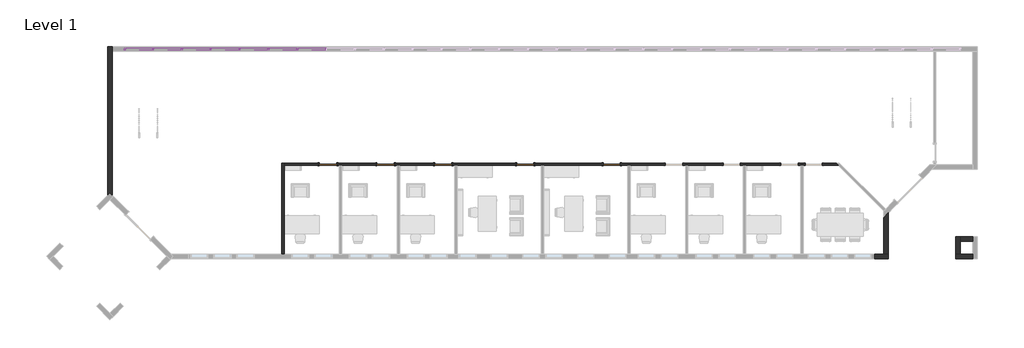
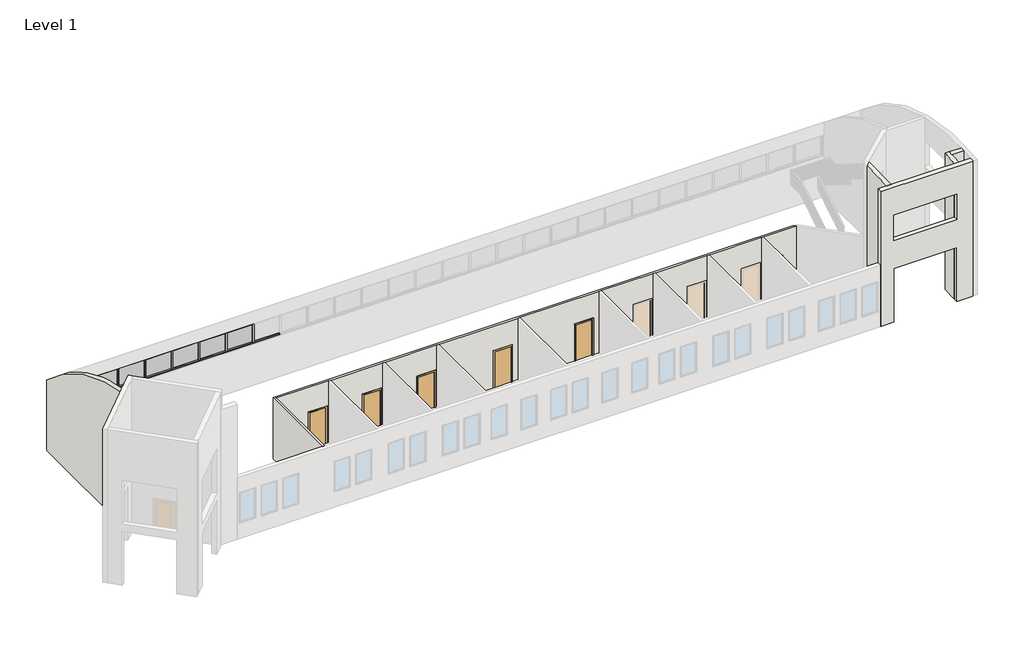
# One storey, part 2 of 4: 23 members, 7 plates, 7 walls, 5 doors.
"""IFC4 building model written with IfcOpenShell, lengths in millimetres."""

from ifc_helpers import new_model, si_unit, frame, origin, place, context, project, spatial, circle_curve, ellipse_curve, faceted_brep, transform, mapped, element, save
from ifc_brep_helpers import plane_surface, cylinder_surface, advanced_brep
from components import door_eb9f8b14, member_26d67f61, member_4a1dde21, member_ea26f28a, member_39b5eb81, system_panel_glazed_acb3b149, system_panel_glazed_38e8219a

model = new_model("IFC4")

# Units and contexts
model_context = context("Model", 3, world=origin())
ifc_project = project(units=[si_unit("LENGTHUNIT", "METRE", prefix="MILLI")], contexts=[model_context])

# Site, building, storey
site = spatial("IfcSite", under=ifc_project)
building = spatial("IfcBuilding", under=site)
storey = spatial("IfcBuildingStorey", under=building, Name="Level 1", Elevation=0.0)

# Doors
placement = place(None, origin())
door_shape = door_eb9f8b14(model_context)
element("IfcDoor", 1, ObjectType="Single-Flush : 36\" x 84\"", at=placement, inside=storey, context=model_context, shape_type="MappedRepresentation", body=[
    mapped(door_shape, transform((-596.7228906, 2425.2975872, 0.0), x_axis=(1.0, 0.0, 0.0), y_axis=(0.0, 1.0, 0.0), z_axis=(0.0, 0.0, 1.0))),
])
element("IfcDoor", 2, ObjectType="Single-Flush : 36\" x 84\"", at=placement, inside=storey, context=model_context, shape_type="MappedRepresentation", body=[
    mapped(door_shape, transform((2451.2771094, 2425.2975872, 0.0), x_axis=(1.0, 0.0, 0.0), y_axis=(0.0, 1.0, 0.0), z_axis=(0.0, 0.0, 1.0))),
])
element("IfcDoor", 3, ObjectType="Single-Flush : 36\" x 84\"", at=placement, inside=storey, context=model_context, shape_type="MappedRepresentation", body=[
    mapped(door_shape, transform((9828.3896094, 2425.2975872, 0.0), x_axis=(1.0, 0.0, 0.0), y_axis=(0.0, 1.0, 0.0), z_axis=(0.0, 0.0, 1.0))),
])
element("IfcDoor", 4, ObjectType="Single-Flush : 36\" x 84\"", at=placement, inside=storey, context=model_context, shape_type="MappedRepresentation", body=[
    mapped(door_shape, transform((5499.2771094, 2425.2975872, 0.0), x_axis=(1.0, 0.0, 0.0), y_axis=(0.0, 1.0, 0.0), z_axis=(0.0, 0.0, 1.0))),
])
element("IfcDoor", 5, ObjectType="Single-Flush : 36\" x 84\"", at=placement, inside=storey, context=model_context, shape_type="MappedRepresentation", body=[
    mapped(door_shape, transform((14400.3896094, 2425.2975872, 0.0), x_axis=(1.0, 0.0, 0.0), y_axis=(0.0, 1.0, 0.0), z_axis=(0.0, 0.0, 1.0))),
])

# Members
member_shape = member_26d67f61(model_context)
element("IfcMember", 6, ObjectType="Rectangular Mullion : 2.5\" x 5\" rectangular", at=placement, inside=storey, context=model_context, shape_type="MappedRepresentation", body=[
    mapped(member_shape, transform((-9862.9603906, 8521.2975872, 3657.6), x_axis=(0.0, 0.0, 1.0), y_axis=(0.0, -1.0, 0.0), z_axis=(1.0, 0.0, 0.0))),
])
member_2_shape = member_4a1dde21(model_context)
element("IfcMember", 7, ObjectType="Rectangular Mullion : 2.5\" x 5\" rectangular", at=placement, inside=storey, context=model_context, shape_type="MappedRepresentation", body=[
    mapped(member_2_shape, transform((-8338.9603906, 8521.2975872, 3657.6), x_axis=(0.0, 0.0, 1.0), y_axis=(0.0, -1.0, 0.0), z_axis=(1.0, 0.0, 0.0))),
])
element("IfcMember", 8, ObjectType="Rectangular Mullion : 2.5\" x 5\" rectangular", at=placement, inside=storey, context=model_context, shape_type="MappedRepresentation", body=[
    mapped(member_2_shape, transform((-6814.9603906, 8521.2975872, 3657.6), x_axis=(0.0, 0.0, 1.0), y_axis=(0.0, -1.0, 0.0), z_axis=(1.0, 0.0, 0.0))),
])
element("IfcMember", 9, ObjectType="Rectangular Mullion : 2.5\" x 5\" rectangular", at=placement, inside=storey, context=model_context, shape_type="MappedRepresentation", body=[
    mapped(member_2_shape, transform((-5290.9603906, 8521.2975872, 3657.6), x_axis=(0.0, 0.0, 1.0), y_axis=(0.0, -1.0, 0.0), z_axis=(1.0, 0.0, 0.0))),
])
element("IfcMember", 10, ObjectType="Rectangular Mullion : 2.5\" x 5\" rectangular", at=placement, inside=storey, context=model_context, shape_type="MappedRepresentation", body=[
    mapped(member_2_shape, transform((-3766.9603906, 8521.2975872, 3657.6), x_axis=(0.0, 0.0, 1.0), y_axis=(0.0, -1.0, 0.0), z_axis=(1.0, 0.0, 0.0))),
])
element("IfcMember", 11, ObjectType="Rectangular Mullion : 2.5\" x 5\" rectangular", at=placement, inside=storey, context=model_context, shape_type="MappedRepresentation", body=[
    mapped(member_2_shape, transform((-2242.9603906, 8521.2975872, 3657.6), x_axis=(0.0, 0.0, 1.0), y_axis=(0.0, -1.0, 0.0), z_axis=(1.0, 0.0, 0.0))),
])
element("IfcMember", 12, ObjectType="Rectangular Mullion : 2.5\" x 5\" rectangular", at=placement, inside=storey, context=model_context, shape_type="MappedRepresentation", body=[
    mapped(member_2_shape, transform((-718.9603906, 8521.2975872, 3657.6), x_axis=(0.0, 0.0, 1.0), y_axis=(0.0, -1.0, 0.0), z_axis=(1.0, 0.0, 0.0))),
])
element("IfcMember", 13, ObjectType="Rectangular Mullion : 2.5\" x 5\" rectangular", at=placement, inside=storey, context=model_context, shape_type="MappedRepresentation", body=[
    mapped(member_shape, transform((-11291.7103906, 8521.2975872, 2451.0234381), x_axis=(0.0, 0.0, -1.0), y_axis=(0.0, -1.0, 0.0), z_axis=(-1.0, 0.0, 0.0))),
])
element("IfcMember", 14, ObjectType="Rectangular Mullion : 2.5\" x 5\" rectangular", at=placement, inside=storey, context=model_context, shape_type="MappedRepresentation", body=[
    mapped(member_2_shape, transform((-9799.4603906, 8521.2975872, 2451.0234381), x_axis=(0.0, 0.0, -1.0), y_axis=(0.0, -1.0, 0.0), z_axis=(-1.0, 0.0, 0.0))),
])
element("IfcMember", 15, ObjectType="Rectangular Mullion : 2.5\" x 5\" rectangular", at=placement, inside=storey, context=model_context, shape_type="MappedRepresentation", body=[
    mapped(member_2_shape, transform((-8275.4603906, 8521.2975872, 2451.0234381), x_axis=(0.0, 0.0, -1.0), y_axis=(0.0, -1.0, 0.0), z_axis=(-1.0, 0.0, 0.0))),
])
element("IfcMember", 16, ObjectType="Rectangular Mullion : 2.5\" x 5\" rectangular", at=placement, inside=storey, context=model_context, shape_type="MappedRepresentation", body=[
    mapped(member_2_shape, transform((-6751.4603906, 8521.2975872, 2451.0234381), x_axis=(0.0, 0.0, -1.0), y_axis=(0.0, -1.0, 0.0), z_axis=(-1.0, 0.0, 0.0))),
])
element("IfcMember", 17, ObjectType="Rectangular Mullion : 2.5\" x 5\" rectangular", at=placement, inside=storey, context=model_context, shape_type="MappedRepresentation", body=[
    mapped(member_2_shape, transform((-5227.4603906, 8521.2975872, 2451.0234381), x_axis=(0.0, 0.0, -1.0), y_axis=(0.0, -1.0, 0.0), z_axis=(-1.0, 0.0, 0.0))),
])
element("IfcMember", 18, ObjectType="Rectangular Mullion : 2.5\" x 5\" rectangular", at=placement, inside=storey, context=model_context, shape_type="MappedRepresentation", body=[
    mapped(member_2_shape, transform((-3703.4603906, 8521.2975872, 2451.0234381), x_axis=(0.0, 0.0, -1.0), y_axis=(0.0, -1.0, 0.0), z_axis=(-1.0, 0.0, 0.0))),
])
element("IfcMember", 19, ObjectType="Rectangular Mullion : 2.5\" x 5\" rectangular", at=placement, inside=storey, context=model_context, shape_type="MappedRepresentation", body=[
    mapped(member_2_shape, transform((-2179.4603906, 8521.2975872, 2451.0234381), x_axis=(0.0, 0.0, -1.0), y_axis=(0.0, -1.0, 0.0), z_axis=(-1.0, 0.0, 0.0))),
])
element("IfcMember", 20, ObjectType="Rectangular Mullion : 2.5\" x 5\" rectangular", at=placement, inside=storey, context=model_context, shape_type="MappedRepresentation", body=[
    mapped(member_2_shape, transform((-655.4603906, 8521.2975872, 2451.0234381), x_axis=(0.0, 0.0, -1.0), y_axis=(0.0, -1.0, 0.0), z_axis=(-1.0, 0.0, 0.0))),
])
member_3_shape = member_ea26f28a(model_context)
element("IfcMember", 21, ObjectType="Rectangular Mullion : 2.5\" x 5\" rectangular", at=placement, inside=storey, context=model_context, shape_type="MappedRepresentation", body=[
    mapped(member_3_shape, transform((-9831.2103906, 8521.2975872, 2451.0234381), x_axis=(1.0, 0.0, 0.0), y_axis=(0.0, -1.0, 0.0), z_axis=(0.0, 0.0, -1.0))),
])
element("IfcMember", 22, ObjectType="Rectangular Mullion : 2.5\" x 5\" rectangular", at=placement, inside=storey, context=model_context, shape_type="MappedRepresentation", body=[
    mapped(member_3_shape, transform((-8307.2103906, 8521.2975872, 2451.0234381), x_axis=(1.0, 0.0, 0.0), y_axis=(0.0, -1.0, 0.0), z_axis=(0.0, 0.0, -1.0))),
])
element("IfcMember", 23, ObjectType="Rectangular Mullion : 2.5\" x 5\" rectangular", at=placement, inside=storey, context=model_context, shape_type="MappedRepresentation", body=[
    mapped(member_3_shape, transform((-6783.2103906, 8521.2975872, 2451.0234381), x_axis=(1.0, 0.0, 0.0), y_axis=(0.0, -1.0, 0.0), z_axis=(0.0, 0.0, -1.0))),
])
element("IfcMember", 24, ObjectType="Rectangular Mullion : 2.5\" x 5\" rectangular", at=placement, inside=storey, context=model_context, shape_type="MappedRepresentation", body=[
    mapped(member_3_shape, transform((-5259.2103906, 8521.2975872, 2451.0234381), x_axis=(1.0, 0.0, 0.0), y_axis=(0.0, -1.0, 0.0), z_axis=(0.0, 0.0, -1.0))),
])
element("IfcMember", 25, ObjectType="Rectangular Mullion : 2.5\" x 5\" rectangular", at=placement, inside=storey, context=model_context, shape_type="MappedRepresentation", body=[
    mapped(member_3_shape, transform((-3735.2103906, 8521.2975872, 2451.0234381), x_axis=(1.0, 0.0, 0.0), y_axis=(0.0, -1.0, 0.0), z_axis=(0.0, 0.0, -1.0))),
])
element("IfcMember", 26, ObjectType="Rectangular Mullion : 2.5\" x 5\" rectangular", at=placement, inside=storey, context=model_context, shape_type="MappedRepresentation", body=[
    mapped(member_3_shape, transform((-2211.2103906, 8521.2975872, 2451.0234381), x_axis=(1.0, 0.0, 0.0), y_axis=(0.0, -1.0, 0.0), z_axis=(0.0, 0.0, -1.0))),
])
element("IfcMember", 27, ObjectType="Rectangular Mullion : 2.5\" x 5\" rectangular", at=placement, inside=storey, context=model_context, shape_type="MappedRepresentation", body=[
    mapped(member_3_shape, transform((-687.2103906, 8521.2975872, 2451.0234381), x_axis=(1.0, 0.0, 0.0), y_axis=(0.0, -1.0, 0.0), z_axis=(0.0, 0.0, -1.0))),
])
member_4_shape = member_39b5eb81(model_context)
element("IfcMember", 28, ObjectType="Rectangular Mullion : 2.5\" x 5\" rectangular", at=placement, inside=storey, context=model_context, shape_type="MappedRepresentation", body=[
    mapped(member_4_shape, transform((-11355.2103906, 8521.2975872, 3657.6), x_axis=(-1.0, 0.0, 0.0), y_axis=(0.0, -1.0, 0.0), z_axis=(0.0, 0.0, 1.0))),
])

# Plates
system_panel_glazed_shape = system_panel_glazed_acb3b149(model_context)
element("IfcPlate", 29, ObjectType="System Panel : Glazed", at=placement, inside=storey, context=model_context, shape_type="MappedRepresentation", body=[
    mapped(system_panel_glazed_shape, transform((-10577.3353906, 8521.2975872, 2514.5234381), x_axis=(1.0, 0.0, 0.0), y_axis=(0.0, 1.0, 0.0), z_axis=(0.0, 0.0, 1.0))),
])
system_panel_glazed_2_shape = system_panel_glazed_38e8219a(model_context)
element("IfcPlate", 30, ObjectType="System Panel : Glazed", at=placement, inside=storey, context=model_context, shape_type="MappedRepresentation", body=[
    mapped(system_panel_glazed_2_shape, transform((-9069.2103906, 8521.2975872, 2514.5234381), x_axis=(1.0, 0.0, 0.0), y_axis=(0.0, 1.0, 0.0), z_axis=(0.0, 0.0, 1.0))),
])
element("IfcPlate", 31, ObjectType="System Panel : Glazed", at=placement, inside=storey, context=model_context, shape_type="MappedRepresentation", body=[
    mapped(system_panel_glazed_2_shape, transform((-7545.2103906, 8521.2975872, 2514.5234381), x_axis=(1.0, 0.0, 0.0), y_axis=(0.0, 1.0, 0.0), z_axis=(0.0, 0.0, 1.0))),
])
element("IfcPlate", 32, ObjectType="System Panel : Glazed", at=placement, inside=storey, context=model_context, shape_type="MappedRepresentation", body=[
    mapped(system_panel_glazed_2_shape, transform((-6021.2103906, 8521.2975872, 2514.5234381), x_axis=(1.0, 0.0, 0.0), y_axis=(0.0, 1.0, 0.0), z_axis=(0.0, 0.0, 1.0))),
])
element("IfcPlate", 33, ObjectType="System Panel : Glazed", at=placement, inside=storey, context=model_context, shape_type="MappedRepresentation", body=[
    mapped(system_panel_glazed_2_shape, transform((-4497.2103906, 8521.2975872, 2514.5234381), x_axis=(1.0, 0.0, 0.0), y_axis=(0.0, 1.0, 0.0), z_axis=(0.0, 0.0, 1.0))),
])
element("IfcPlate", 34, ObjectType="System Panel : Glazed", at=placement, inside=storey, context=model_context, shape_type="MappedRepresentation", body=[
    mapped(system_panel_glazed_2_shape, transform((-2973.2103906, 8521.2975872, 2514.5234381), x_axis=(1.0, 0.0, 0.0), y_axis=(0.0, 1.0, 0.0), z_axis=(0.0, 0.0, 1.0))),
])
element("IfcPlate", 35, ObjectType="System Panel : Glazed", at=placement, inside=storey, context=model_context, shape_type="MappedRepresentation", body=[
    mapped(system_panel_glazed_2_shape, transform((-1449.2103906, 8521.2975872, 2514.5234381), x_axis=(1.0, 0.0, 0.0), y_axis=(0.0, 1.0, 0.0), z_axis=(0.0, 0.0, 1.0))),
])

# Walls
element("IfcWall", 36, ObjectType="Exterior - EIFS on Mtl. Stud", at=placement, inside=storey, context=model_context, shape_type="AdvancedBrep", body=[
    advanced_brep(
    [(-11996.5603906, 777.4831203, 0.0), (-11996.5603906, 8400.6475872, 0.0), (-11996.5603906, 8641.9475872, 0.0), (-11996.5603906, 8641.9475872, 4186.9126463), (-11996.5603906, 8400.6404103, 4416.6270044), (-11996.5603906, 777.4831203, 8006.8172025), (-12237.8603906, 777.4831203, 0.0), (-12237.8603906, 777.4831203, 8006.8172025), (-12237.8603906, 8641.9475872, 4186.9126463), (-12237.8603906, 8641.9475872, 0.0), (-12117.2103906, 898.1331203, 0.0), (-12117.2103906, 898.1331203, 7990.3191324)],
    [
        (0, 1),
        (1, 2),
        (2, 3),
        (3, 4, circle_curve(frame((-11996.5603906, -1041.3166946, -5743.4275557), z_axis=(1.0, 0.0, 0.0), x_axis=(0.0, -1.0, 0.0)), 13870.0131102)),
        (4, 5, circle_curve(frame((-11996.5603906, -1041.3166946, -5743.4275557), z_axis=(1.0, 0.0, 0.0), x_axis=(0.0, -1.0, 0.0)), 13870.0130727)),
        (5, 0),
        (6, 7),
        (7, 8, circle_curve(frame((-12237.8603906, -1041.3166946, -5743.4275557), z_axis=(-1.0, 0.0, 0.0), x_axis=(0.0, -1.0, 0.0)), 13870.0131102)),
        (8, 9),
        (9, 6),
        (0, 10),
        (10, 6),
        (9, 2),
        (8, 3),
        (5, 11, ellipse_curve(frame((-10177.7605757, -1041.3166946, -5743.4275557), z_axis=(-0.7071067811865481, -0.7071067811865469, 0.0), x_axis=(0.7071067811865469, -0.707106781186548, 0.0)), 19615.1606508, 13870.0131102)),
        (11, 10),
        (11, 7, ellipse_curve(frame((-14056.6602055, -1041.3166946, -5743.4275557), z_axis=(0.707106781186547, -0.707106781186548, 0.0), x_axis=(0.707106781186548, 0.707106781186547, 0.0)), 19615.1606508, 13870.0131102)),
    ],
    [
        plane_surface(frame((-11996.5603906, -2451.5024128, 0.0), z_axis=(1.0, 0.0, 0.0), x_axis=(0.0, 1.0, 0.0))),
        plane_surface(frame((-12237.8603906, -2451.5024128, 0.0), z_axis=(-1.0, 0.0, 0.0), x_axis=(0.0, -1.0, 0.0))),
        plane_surface(frame((-11996.5603906, 727.508254, 0.0), z_axis=(0.0, 0.0, -1.0), x_axis=(-1.0, 0.0, 0.0))),
        plane_surface(frame((-6021.2103906, 8641.9475872, 0.0), z_axis=(0.0, 1.0, 0.0), x_axis=(-1.0, 0.0, 0.0))),
        plane_surface(frame((-9361.6897463, -1857.387524, -182.88), z_axis=(-0.7071067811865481, -0.7071067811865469, 0.0), x_axis=(0.7071067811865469, -0.7071067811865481, 0.0))),
        plane_surface(frame((-14872.7310349, -1857.387524, -182.88), z_axis=(0.707106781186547, -0.707106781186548, 0.0), x_axis=(0.707106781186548, 0.707106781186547, 0.0))),
        cylinder_surface(frame((34821.9896094, -1041.3166946, -5743.4275557), z_axis=(1.0, 0.0, 0.0), x_axis=(0.0, -1.0, 0.0)), 13870.0131102),
    ],
    [
        (0, [[1, 2, 3, 4, 5, 6]]),
        (1, [[7, 8, 9, 10]]),
        (2, [[-2, -1, 11, 12, -10, 13]]),
        (3, [[-3, -13, -9, 14]]),
        (4, [[-6, 15, 16, -11]]),
        (5, [[17, -7, -12, -16]]),
        (6, [[-5, -4, -14, -8, -17, -15]]),
    ],
),
])
element("IfcWall", 37, ObjectType="Exterior - EIFS on Mtl. Stud", at=placement, inside=storey, context=model_context, shape_type="AdvancedBrep", body=[
    advanced_brep(
    [(33482.1396094, -2330.8524128, 0.0), (32809.0396094, -2330.8524128, 0.0), (32567.7396094, -2330.8524128, 0.0), (32567.7396094, -2330.8524128, 3200.4), (29002.2146094, -2330.8524128, 3200.4), (29002.2146094, -2330.8524128, 0.0), (28760.9146094, -2330.8524128, 0.0), (28268.7896094, -2330.8524128, 0.0), (28268.7896094, -2330.8524128, 3657.6), (28268.7896094, -2330.8524128, 7315.2), (28268.7896094, -2330.8524128, 8066.5094937), (28760.9146094, -2330.8524128, 8066.5094937), (29002.2146094, -2330.8524128, 8066.5094937), (32567.7396094, -2330.8524128, 8066.5094937), (32809.0396094, -2330.8524128, 8066.5094937), (33482.1396094, -2330.8524128, 8066.5094937), (32567.7396094, -2330.8524128, 4876.8), (32567.7396094, -2330.8524128, 6400.8), (29002.2146094, -2330.8524128, 6400.8), (29002.2146094, -2330.8524128, 4876.8), (33482.1396094, -2572.1524128, 0.0), (33482.1396094, -2572.1524128, 8041.8474028), (28268.7896094, -2572.1524128, 8041.8474028), (28268.7896094, -2572.1524128, 7315.2), (28268.7896094, -2572.1524128, 3657.6), (28268.7896094, -2572.1524128, 0.0), (29002.2146094, -2572.1524128, 0.0), (29002.2146094, -2572.1524128, 3200.4), (32567.7396094, -2572.1524128, 3200.4), (32567.7396094, -2572.1524128, 0.0), (32567.7396094, -2572.1524128, 4876.8), (29002.2146094, -2572.1524128, 4876.8), (29002.2146094, -2572.1524128, 6400.8), (32567.7396094, -2572.1524128, 6400.8)],
    [
        (0, 1),
        (1, 2),
        (2, 3),
        (3, 4),
        (4, 5),
        (5, 6),
        (6, 7),
        (7, 8),
        (8, 9),
        (9, 10),
        (10, 11),
        (11, 12),
        (12, 13),
        (13, 14),
        (14, 15),
        (15, 0),
        (16, 17),
        (17, 18),
        (18, 19),
        (19, 16),
        (20, 21),
        (21, 22),
        (22, 23),
        (23, 24),
        (24, 25),
        (25, 26),
        (26, 27),
        (27, 28),
        (28, 29),
        (29, 20),
        (30, 31),
        (31, 32),
        (32, 33),
        (33, 30),
        (0, 20),
        (29, 2),
        (3, 28),
        (27, 4),
        (5, 26),
        (25, 7),
        (17, 33),
        (32, 18),
        (19, 31),
        (30, 16),
        (22, 10, circle_curve(frame((28268.7896094, -1041.3166946, -5743.4275557), z_axis=(-1.0, 0.0, 0.0), x_axis=(0.0, -1.0, 0.0)), 13870.0131102)),
        (15, 21, circle_curve(frame((33482.1396094, -1041.3166946, -5743.4275557), z_axis=(1.0, 0.0, 0.0), x_axis=(0.0, -1.0, 0.0)), 13870.0131102)),
    ],
    [
        plane_surface(frame((12266.7896094, -2330.8524128, 0.0), z_axis=(0.0, 1.0, 0.0), x_axis=(-1.0, 0.0, 0.0))),
        plane_surface(frame((12266.7896094, -2572.1524128, 0.0), z_axis=(0.0, -1.0, 0.0), x_axis=(1.0, 0.0, 0.0))),
        plane_surface(frame((33602.7896094, -2330.8524128, 0.0), z_axis=(0.0, 0.0, -1.0), x_axis=(0.0, -1.0, 0.0))),
        plane_surface(frame((32688.3896094, -2330.8524128, 3200.4), z_axis=(0.0, 0.0, -1.0), x_axis=(0.0, -1.0, 0.0))),
        plane_surface(frame((28881.5646094, -2330.8524128, 0.0), z_axis=(0.0, 0.0, -1.0), x_axis=(0.0, -1.0, 0.0))),
        plane_surface(frame((32688.3896094, -2330.8524128, 6400.8), z_axis=(0.0, 0.0, -1.0), x_axis=(0.0, -1.0, 0.0))),
        plane_surface(frame((28881.5646094, -2330.8524128, 4876.8), z_axis=(0.0, 0.0, 1.0), x_axis=(0.0, -1.0, 0.0))),
        plane_surface(frame((28268.7896094, -2330.8524128, 0.0), z_axis=(-1.0, 0.0, 0.0), x_axis=(0.0, -1.0, 0.0))),
        plane_surface(frame((32567.7396094, -2451.5024128, 0.0), z_axis=(-1.0, 0.0, 0.0), x_axis=(0.0, -1.0, 0.0))),
        plane_surface(frame((29002.2146094, -1062.9801319, 0.0), z_axis=(1.0, 0.0, 0.0), x_axis=(0.0, 1.0, 0.0))),
        plane_surface(frame((33482.1396094, 6692.4975872, 0.0), z_axis=(1.0, 0.0, 0.0), x_axis=(0.0, -1.0, 0.0))),
        cylinder_surface(frame((34821.9896094, -1041.3166946, -5743.4275557), z_axis=(1.0, 0.0, 0.0), x_axis=(0.0, -1.0, 0.0)), 13870.0131102),
    ],
    [
        (0, [[1, 2, 3, 4, 5, 6, 7, 8, 9, 10, 11, 12, 13, 14, 15, 16], [17, 18, 19, 20]]),
        (1, [[21, 22, 23, 24, 25, 26, 27, 28, 29, 30], [31, 32, 33, 34]]),
        (2, [[-2, -1, 35, -30, 36]]),
        (3, [[-4, 37, -28, 38]]),
        (4, [[-7, -6, 39, -26, 40]]),
        (5, [[-18, 41, -33, 42]]),
        (6, [[-20, 43, -31, 44]]),
        (7, [[-40, -25, -24, -23, 45, -10, -9, -8]]),
        (8, [[-3, -36, -29, -37]]),
        (8, [[-17, -44, -34, -41]]),
        (9, [[-5, -38, -27, -39]]),
        (9, [[-19, -42, -32, -43]]),
        (10, [[-16, 46, -21, -35]]),
        (11, [[-15, -14, -13, -12, -11, -45, -22, -46]]),
    ],
),
])
element("IfcWall", 38, ObjectType="Exterior - EIFS on Mtl. Stud", at=placement, inside=storey, context=model_context, shape_type="AdvancedBrep", body=[
    advanced_brep(
    [(32809.0396094, -2330.8524128, 8066.5094937), (32809.0396094, -2330.8524128, 0.0), (32809.0396094, -1657.7524128, 0.0), (32809.0396094, -1416.4524128, 0.0), (32809.0396094, -1416.4524128, 8121.5115668), (32809.0396094, -1657.757348, 8112.8801821), (32567.7396094, -2330.8524128, 0.0), (32567.7396094, -2330.8524128, 3200.4), (32567.7396094, -2330.8524128, 4876.8), (32567.7396094, -2330.8524128, 6400.8), (32567.7396094, -2330.8524128, 8066.5094937), (32567.7396094, -1416.4524128, 8121.5115668), (32567.7396094, -1416.4524128, 0.0)],
    [
        (0, 1),
        (1, 2),
        (2, 3),
        (3, 4),
        (4, 5, circle_curve(frame((32809.0396094, -1041.3166946, -5743.4275557), z_axis=(1.0, 0.0, 0.0), x_axis=(0.0, -1.0, 0.0)), 13870.0131102)),
        (5, 0, circle_curve(frame((32809.0396094, -1041.3166946, -5743.4275557), z_axis=(1.0, 0.0, 0.0), x_axis=(0.0, -1.0, 0.0)), 13870.0130931)),
        (6, 7),
        (7, 8),
        (8, 9),
        (9, 10),
        (10, 11, circle_curve(frame((32567.7396094, -1041.3166946, -5743.4275557), z_axis=(-1.0, 0.0, 0.0), x_axis=(0.0, -1.0, 0.0)), 13870.0131102)),
        (11, 12),
        (12, 6),
        (1, 6),
        (12, 3),
        (11, 4),
        (0, 10),
    ],
    [
        plane_surface(frame((32809.0396094, -2451.5024128, 0.0), z_axis=(1.0, 0.0, 0.0), x_axis=(0.0, 1.0, 0.0))),
        plane_surface(frame((32567.7396094, -2451.5024128, 0.0), z_axis=(-1.0, 0.0, 0.0), x_axis=(0.0, -1.0, 0.0))),
        plane_surface(frame((32809.0396094, -2451.5024128, 0.0), z_axis=(0.0, 0.0, -1.0), x_axis=(-1.0, 0.0, 0.0))),
        plane_surface(frame((32383.5896094, -1416.4524128, 0.0), z_axis=(0.0, 1.0, 0.0), x_axis=(-1.0, 0.0, 0.0))),
        plane_surface(frame((12266.7896094, -2330.8524128, 0.0), z_axis=(0.0, -1.0, 0.0), x_axis=(-1.0, 0.0, 0.0))),
        cylinder_surface(frame((34821.9896094, -1041.3166946, -5743.4275557), z_axis=(1.0, 0.0, 0.0), x_axis=(0.0, -1.0, 0.0)), 13870.0131102),
    ],
    [
        (0, [[1, 2, 3, 4, 5, 6]]),
        (1, [[7, 8, 9, 10, 11, 12, 13]]),
        (2, [[-3, -2, 14, -13, 15]]),
        (3, [[-4, -15, -12, 16]]),
        (4, [[17, -10, -9, -8, -7, -14, -1]]),
        (5, [[-6, -5, -16, -11, -17]]),
    ],
),
])
element("IfcWall", 39, ObjectType="Exterior - EIFS on Mtl. Stud", at=placement, inside=storey, context=model_context, shape_type="AdvancedBrep", body=[
    advanced_brep(
    [(32809.0396094, -1657.7524128, 0.0), (33482.1396094, -1657.7524128, 0.0), (33482.1396094, -1657.7524128, 8112.8804187), (32809.0396094, -1657.7524128, 8112.8804187), (32809.0396094, -1416.4524128, 0.0), (32809.0396094, -1416.4524128, 8121.5115668), (33482.1396094, -1416.4524128, 8121.5115668), (33482.1396094, -1416.4524128, 6400.8), (33482.1396094, -1416.4524128, 4876.8), (33482.1396094, -1416.4524128, 3200.4), (33482.1396094, -1416.4524128, 0.0)],
    [
        (0, 1),
        (1, 2),
        (2, 3),
        (3, 0),
        (4, 5),
        (5, 6),
        (6, 7),
        (7, 8),
        (8, 9),
        (9, 10),
        (10, 4),
        (0, 4),
        (10, 1),
        (3, 5, circle_curve(frame((32809.0396094, -1041.3166946, -5743.4275557), z_axis=(-1.0, 0.0, 0.0), x_axis=(0.0, -1.0, 0.0)), 13870.0131102)),
        (6, 2, circle_curve(frame((33482.1396094, -1041.3166946, -5743.4275557), z_axis=(1.0, 0.0, 0.0), x_axis=(0.0, -1.0, 0.0)), 13870.0131102)),
    ],
    [
        plane_surface(frame((32383.5896094, -1657.7524128, 0.0), z_axis=(0.0, -1.0, 0.0), x_axis=(1.0, 0.0, 0.0))),
        plane_surface(frame((32383.5896094, -1416.4524128, 0.0), z_axis=(0.0, 1.0, 0.0), x_axis=(-1.0, 0.0, 0.0))),
        plane_surface(frame((32688.3896094, -1657.7524128, 0.0), z_axis=(0.0, 0.0, -1.0), x_axis=(0.0, 1.0, 0.0))),
        plane_surface(frame((32809.0396094, -2451.5024128, 0.0), z_axis=(-1.0, 0.0, 0.0), x_axis=(0.0, 1.0, 0.0))),
        plane_surface(frame((33482.1396094, 6692.4975872, 0.0), z_axis=(1.0, 0.0, 0.0), x_axis=(0.0, -1.0, 0.0))),
        cylinder_surface(frame((34821.9896094, -1041.3166946, -5743.4275557), z_axis=(1.0, 0.0, 0.0), x_axis=(0.0, -1.0, 0.0)), 13870.0131102),
    ],
    [
        (0, [[1, 2, 3, 4]]),
        (1, [[5, 6, 7, 8, 9, 10, 11]]),
        (2, [[-1, 12, -11, 13]]),
        (3, [[-4, 14, -5, -12]]),
        (4, [[-13, -10, -9, -8, -7, 15, -2]]),
        (5, [[-3, -15, -6, -14]]),
    ],
),
])
element("IfcWall", 40, ObjectType="Exterior - EIFS on Mtl. Stud", at=placement, inside=storey, context=model_context, shape_type="AdvancedBrep", body=[
    advanced_brep(
    [(28760.9146094, -392.3168192, 0.0), (28760.9146094, -2330.8524128, 0.0), (28760.9146094, -2330.8524128, 8066.5094937), (28760.9146094, -392.3168192, 8111.3933684), (29002.2146094, -151.0168192, 0.0), (29002.2146094, -151.0168192, 8097.9824089), (29002.2146094, -2330.8524128, 8066.5094937), (29002.2146094, -2330.8524128, 6400.8), (29002.2146094, -2330.8524128, 4876.8), (29002.2146094, -2330.8524128, 3200.4), (29002.2146094, -2330.8524128, 0.0)],
    [
        (0, 1),
        (1, 2),
        (2, 3, circle_curve(frame((28760.9146094, -1041.3166946, -5743.4275557), z_axis=(-1.0, 0.0, 0.0), x_axis=(0.0, -1.0, 0.0)), 13870.0131102)),
        (3, 0),
        (4, 5),
        (5, 6, circle_curve(frame((29002.2146094, -1041.3166946, -5743.4275557), z_axis=(1.0, 0.0, 0.0), x_axis=(0.0, -1.0, 0.0)), 13870.0131102)),
        (6, 7),
        (7, 8),
        (8, 9),
        (9, 10),
        (10, 4),
        (0, 4),
        (10, 1),
        (6, 2),
        (3, 5, ellipse_curve(frame((28111.9147341, -1041.3166946, -5743.4275557), z_axis=(-0.7071067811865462, 0.707106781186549, 0.0), x_axis=(0.7071067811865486, 0.7071067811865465, 0.0)), 19615.1606508, 13870.0131102)),
    ],
    [
        plane_surface(frame((28760.9146094, -1062.9801319, 0.0), z_axis=(-1.0, 0.0, 0.0), x_axis=(0.0, -1.0, 0.0))),
        plane_surface(frame((29002.2146094, -1062.9801319, 0.0), z_axis=(1.0, 0.0, 0.0), x_axis=(0.0, 1.0, 0.0))),
        plane_surface(frame((28760.9146094, -101.0419529, 0.0), z_axis=(0.0, 0.0, -1.0), x_axis=(1.0, 0.0, 0.0))),
        plane_surface(frame((12266.7896094, -2330.8524128, 0.0), z_axis=(0.0, -1.0, 0.0), x_axis=(-1.0, 0.0, 0.0))),
        plane_surface(frame((29049.7306208, -103.5008079, 0.0), z_axis=(-0.7071067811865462, 0.707106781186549, 0.0), x_axis=(0.707106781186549, 0.7071067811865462, 0.0))),
        cylinder_surface(frame((34821.9896094, -1041.3166946, -5743.4275557), z_axis=(1.0, 0.0, 0.0), x_axis=(0.0, -1.0, 0.0)), 13870.0131102),
    ],
    [
        (0, [[1, 2, 3, 4]]),
        (1, [[5, 6, 7, 8, 9, 10, 11]]),
        (2, [[-1, 12, -11, 13]]),
        (3, [[-13, -10, -9, -8, -7, 14, -2]]),
        (4, [[-4, 15, -5, -12]]),
        (5, [[-3, -14, -6, -15]]),
    ],
),
])
element("IfcWall", 41, ObjectType="Interior - 4 7/8\" Partition (1-hr)", at=placement, inside=storey, context=model_context, shape_type="Brep", body=[
    faceted_brep([(14857.5896094, 2363.3850872, 2133.6), (14857.5896094, 2363.3850872, 0.0), (15252.8771094, 2363.3850872, 0.0), (15376.7021094, 2363.3850872, 0.0), (17234.0771094, 2363.3850872, 0.0), (17234.0771094, 2363.3850872, 2133.6), (18148.4771094, 2363.3850872, 2133.6), (18148.4771094, 2363.3850872, 0.0), (18300.8771094, 2363.3850872, 0.0), (18424.7021094, 2363.3850872, 0.0), (20282.0771094, 2363.3850872, 0.0), (20282.0771094, 2363.3850872, 2133.6), (21196.4771094, 2363.3850872, 2133.6), (21196.4771094, 2363.3850872, 0.0), (21348.8771094, 2363.3850872, 0.0), (21472.7021094, 2363.3850872, 0.0), (23330.0771094, 2363.3850872, 0.0), (23330.0771094, 2363.3850872, 2133.6), (24244.4771094, 2363.3850872, 2133.6), (24244.4771094, 2363.3850872, 0.0), (24396.8771094, 2363.3850872, 0.0), (24520.7021094, 2363.3850872, 0.0), (24611.1896094, 2363.3850872, 0.0), (24611.1896094, 2363.3850872, 2133.6), (25525.5896094, 2363.3850872, 2133.6), (25525.5896094, 2363.3850872, 0.0), (26378.9714808, 2363.3850872, 0.0), (26378.9714808, 2363.3850872, 3657.6), (24520.7021094, 2363.3850872, 3657.6), (24396.8771094, 2363.3850872, 3657.6), (21472.7021094, 2363.3850872, 3657.6), (21348.8771094, 2363.3850872, 3657.6), (18424.7021094, 2363.3850872, 3657.6), (18300.8771094, 2363.3850872, 3657.6), (15376.7021094, 2363.3850872, 3657.6), (15252.8771094, 2363.3850872, 3657.6), (10804.7021094, 2363.3850872, 3657.6), (10680.8771094, 2363.3850872, 3657.6), (6232.7021094, 2363.3850872, 3657.6), (6108.8771094, 2363.3850872, 3657.6), (3184.7021094, 2363.3850872, 3657.6), (3060.8771094, 2363.3850872, 3657.6), (136.7021094, 2363.3850872, 3657.6), (12.8771094, 2363.3850872, 3657.6), (-2911.2978906, 2363.3850872, 3657.6), (-2911.2978906, 2363.3850872, 0.0), (-1053.9228906, 2363.3850872, 0.0), (-1053.9228906, 2363.3850872, 2133.6), (-139.5228906, 2363.3850872, 2133.6), (-139.5228906, 2363.3850872, 0.0), (12.8771094, 2363.3850872, 0.0), (136.7021094, 2363.3850872, 0.0), (1994.0771094, 2363.3850872, 0.0), (1994.0771094, 2363.3850872, 2133.6), (2908.4771094, 2363.3850872, 2133.6), (2908.4771094, 2363.3850872, 0.0), (3060.8771094, 2363.3850872, 0.0), (3184.7021094, 2363.3850872, 0.0), (5042.0771094, 2363.3850872, 0.0), (5042.0771094, 2363.3850872, 2133.6), (5956.4771094, 2363.3850872, 2133.6), (5956.4771094, 2363.3850872, 0.0), (6108.8771094, 2363.3850872, 0.0), (6232.7021094, 2363.3850872, 0.0), (9371.1896094, 2363.3850872, 0.0), (9371.1896094, 2363.3850872, 2133.6), (10285.5896094, 2363.3850872, 2133.6), (10285.5896094, 2363.3850872, 0.0), (10680.8771094, 2363.3850872, 0.0), (10804.7021094, 2363.3850872, 0.0), (13943.1896094, 2363.3850872, 0.0), (13943.1896094, 2363.3850872, 2133.6), (17234.0771094, 2487.2100872, 0.0), (14857.5896094, 2487.2100872, 0.0), (14857.5896094, 2487.2100872, 2133.6), (13943.1896094, 2487.2100872, 2133.6), (13943.1896094, 2487.2100872, 0.0), (10285.5896094, 2487.2100872, 0.0), (10285.5896094, 2487.2100872, 2133.6), (9371.1896094, 2487.2100872, 2133.6), (9371.1896094, 2487.2100872, 0.0), (5956.4771094, 2487.2100872, 0.0), (5956.4771094, 2487.2100872, 2133.6), (5042.0771094, 2487.2100872, 2133.6), (5042.0771094, 2487.2100872, 0.0), (2908.4771094, 2487.2100872, 0.0), (2908.4771094, 2487.2100872, 2133.6), (1994.0771094, 2487.2100872, 2133.6), (1994.0771094, 2487.2100872, 0.0), (-139.5228906, 2487.2100872, 0.0), (-139.5228906, 2487.2100872, 2133.6), (-1053.9228906, 2487.2100872, 2133.6), (-1053.9228906, 2487.2100872, 0.0), (-2911.2978906, 2487.2100872, 0.0), (-2911.2978906, 2487.2100872, 3657.6), (26255.1464808, 2487.2100872, 3657.6), (26255.1464808, 2487.2100872, 0.0), (25525.5896094, 2487.2100872, 0.0), (25525.5896094, 2487.2100872, 2133.6), (24611.1896094, 2487.2100872, 2133.6), (24611.1896094, 2487.2100872, 0.0), (24244.4771094, 2487.2100872, 0.0), (24244.4771094, 2487.2100872, 2133.6), (23330.0771094, 2487.2100872, 2133.6), (23330.0771094, 2487.2100872, 0.0), (21196.4771094, 2487.2100872, 0.0), (21196.4771094, 2487.2100872, 2133.6), (20282.0771094, 2487.2100872, 2133.6), (20282.0771094, 2487.2100872, 0.0), (18148.4771094, 2487.2100872, 0.0), (18148.4771094, 2487.2100872, 2133.6), (17234.0771094, 2487.2100872, 2133.6)], [[[0, 1, 2, 3, 4, 5, 6, 7, 8, 9, 10, 11, 12, 13, 14, 15, 16, 17, 18, 19, 20, 21, 22, 23, 24, 25, 26, 27, 28, 29, 30, 31, 32, 33, 34, 35, 36, 37, 38, 39, 40, 41, 42, 43, 44, 45, 46, 47, 48, 49, 50, 51, 52, 53, 54, 55, 56, 57, 58, 59, 60, 61, 62, 63, 64, 65, 66, 67, 68, 69, 70, 71]], [[72, 73, 74, 75, 76, 77, 78, 79, 80, 81, 82, 83, 84, 85, 86, 87, 88, 89, 90, 91, 92, 93, 94, 95, 96, 97, 98, 99, 100, 101, 102, 103, 104, 105, 106, 107, 108, 109, 110, 111]], [[22, 21, 20, 19, 101, 100]], [[97, 96, 26, 25]], [[46, 45, 93, 92]], [[52, 51, 50, 49, 89, 88]], [[4, 3, 2, 1, 73, 72]], [[10, 9, 8, 7, 109, 108]], [[16, 15, 14, 13, 105, 104]], [[64, 63, 62, 61, 81, 80]], [[58, 57, 56, 55, 85, 84]], [[70, 69, 68, 67, 77, 76]], [[44, 43, 42, 41, 40, 39, 38, 37, 36, 35, 34, 33, 32, 31, 30, 29, 28, 27, 95, 94]], [[45, 44, 94, 93]], [[27, 26, 96, 95]], [[23, 22, 100, 99]], [[24, 23, 99, 98]], [[25, 24, 98, 97]], [[90, 89, 49, 48]], [[91, 90, 48, 47]], [[92, 91, 47, 46]], [[86, 85, 55, 54]], [[87, 86, 54, 53]], [[88, 87, 53, 52]], [[110, 109, 7, 6]], [[111, 110, 6, 5]], [[72, 111, 5, 4]], [[106, 105, 13, 12]], [[107, 106, 12, 11]], [[108, 107, 11, 10]], [[102, 101, 19, 18]], [[103, 102, 18, 17]], [[104, 103, 17, 16]], [[78, 77, 67, 66]], [[79, 78, 66, 65]], [[80, 79, 65, 64]], [[82, 81, 61, 60]], [[83, 82, 60, 59]], [[84, 83, 59, 58]], [[74, 73, 1, 0]], [[75, 74, 0, 71]], [[76, 75, 71, 70]]]),
])
element("IfcWall", 42, ObjectType="Interior - 4 7/8\" Partition (1-hr)", at=placement, inside=storey, context=model_context, shape_type="Brep", body=[
    faceted_brep([(-2911.2978906, -2330.8524128, 0.0), (-2911.2978906, 2363.3850872, 0.0), (-2911.2978906, 2487.2100872, 0.0), (-2911.2978906, 2487.2100872, 3657.6), (-2911.2978906, 2363.3850872, 3657.6), (-2911.2978906, -2330.8524128, 3657.6), (-3035.1228906, -2330.8524128, 0.0), (-3035.1228906, -2330.8524128, 3657.6), (-3035.1228906, 2487.2100872, 3657.6), (-3035.1228906, 2487.2100872, 0.0)], [[[0, 1, 2, 3, 4, 5]], [[6, 7, 8, 9]], [[2, 1, 0, 6, 9]], [[5, 4, 3, 8, 7]], [[3, 2, 9, 8]], [[0, 5, 7, 6]]]),
])

save(model, "model.ifc")
